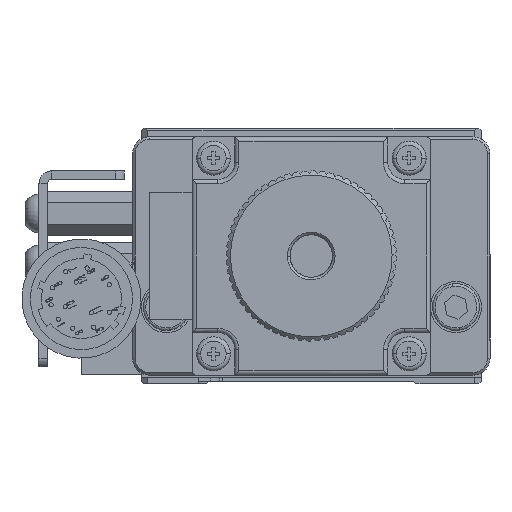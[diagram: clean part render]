
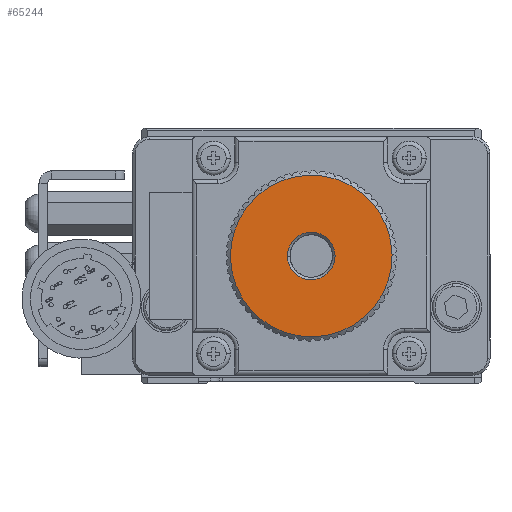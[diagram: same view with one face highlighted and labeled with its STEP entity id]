
A CAD part, front view. The second image highlights one B-rep face of the part: STEP entity #65244.
In plain terms, the highlighted planar face has unit normal (0, -1, 0).
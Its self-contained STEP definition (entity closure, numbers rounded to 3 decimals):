
#4685 = VERTEX_POINT ( 'NONE', #85309 ) ;
#8319 = DIRECTION ( 'NONE',  ( 0., 1., 0. ) ) ;
#13190 = AXIS2_PLACEMENT_3D ( 'NONE', #53389, #65223, #118498 ) ;
#15331 = AXIS2_PLACEMENT_3D ( 'NONE', #76977, #107207, #23158 ) ;
#15360 = CARTESIAN_POINT ( 'NONE',  ( 2.799, -103., 15.066 ) ) ;
#17512 = DIRECTION ( 'NONE',  ( -1., 0., -0.024 ) ) ;
#19912 = CIRCLE ( 'NONE', #13190, 9.5 ) ;
#21484 = FACE_OUTER_BOUND ( 'NONE', #91365, .T. ) ;
#23158 = DIRECTION ( 'NONE',  ( -1., 0., -0.024 ) ) ;
#24897 = VERTEX_POINT ( 'NONE', #36323 ) ;
#27682 = AXIS2_PLACEMENT_3D ( 'NONE', #41798, #70622, #17512 ) ;
#30390 = AXIS2_PLACEMENT_3D ( 'NONE', #39949, #47874, #131796 ) ;
#36323 = CARTESIAN_POINT ( 'NONE',  ( -9.497, -103., 14.776 ) ) ;
#37297 = AXIS2_PLACEMENT_3D ( 'NONE', #136329, #8319, #43309 ) ;
#39949 = CARTESIAN_POINT ( 'NONE',  ( 0., -103., 15. ) ) ;
#41798 = CARTESIAN_POINT ( 'NONE',  ( 0., -103., 15. ) ) ;
#43309 = DIRECTION ( 'NONE',  ( -1., 0., -0.024 ) ) ;
#43648 = CIRCLE ( 'NONE', #37297, 2.8 ) ;
#46075 = ORIENTED_EDGE ( 'NONE', *, *, #48295, .T. ) ;
#47874 = DIRECTION ( 'NONE',  ( 0., 1., 0. ) ) ;
#48295 = EDGE_CURVE ( 'NONE', #4685, #85852, #61685, .T. ) ;
#53389 = CARTESIAN_POINT ( 'NONE',  ( 0., -103., 15. ) ) ;
#54141 = EDGE_LOOP ( 'NONE', ( #103970, #46075 ) ) ;
#61685 = CIRCLE ( 'NONE', #30390, 2.8 ) ;
#65223 = DIRECTION ( 'NONE',  ( 0., -1., 0. ) ) ;
#65244 = ADVANCED_FACE ( 'NONE', ( #124538, #21484 ), #80469, .F. ) ;
#69603 = EDGE_CURVE ( 'NONE', #104508, #24897, #122648, .T. ) ;
#70622 = DIRECTION ( 'NONE',  ( 0., 1., 0. ) ) ;
#73980 = CARTESIAN_POINT ( 'NONE',  ( 9.497, -103., 15.224 ) ) ;
#76977 = CARTESIAN_POINT ( 'NONE',  ( 0., -103., 15. ) ) ;
#80469 = PLANE ( 'NONE',  #27682 ) ;
#85309 = CARTESIAN_POINT ( 'NONE',  ( -2.799, -103., 14.934 ) ) ;
#85852 = VERTEX_POINT ( 'NONE', #15360 ) ;
#87812 = EDGE_CURVE ( 'NONE', #24897, #104508, #19912, .T. ) ;
#89295 = ORIENTED_EDGE ( 'NONE', *, *, #87812, .T. ) ;
#91365 = EDGE_LOOP ( 'NONE', ( #89295, #132224 ) ) ;
#103970 = ORIENTED_EDGE ( 'NONE', *, *, #111430, .T. ) ;
#104508 = VERTEX_POINT ( 'NONE', #73980 ) ;
#107207 = DIRECTION ( 'NONE',  ( 0., -1., 0. ) ) ;
#111430 = EDGE_CURVE ( 'NONE', #85852, #4685, #43648, .T. ) ;
#118498 = DIRECTION ( 'NONE',  ( -1., 0., -0.024 ) ) ;
#122648 = CIRCLE ( 'NONE', #15331, 9.5 ) ;
#124538 = FACE_BOUND ( 'NONE', #54141, .T. ) ;
#131796 = DIRECTION ( 'NONE',  ( -1., 0., -0.024 ) ) ;
#132224 = ORIENTED_EDGE ( 'NONE', *, *, #69603, .T. ) ;
#136329 = CARTESIAN_POINT ( 'NONE',  ( 0., -103., 15. ) ) ;
